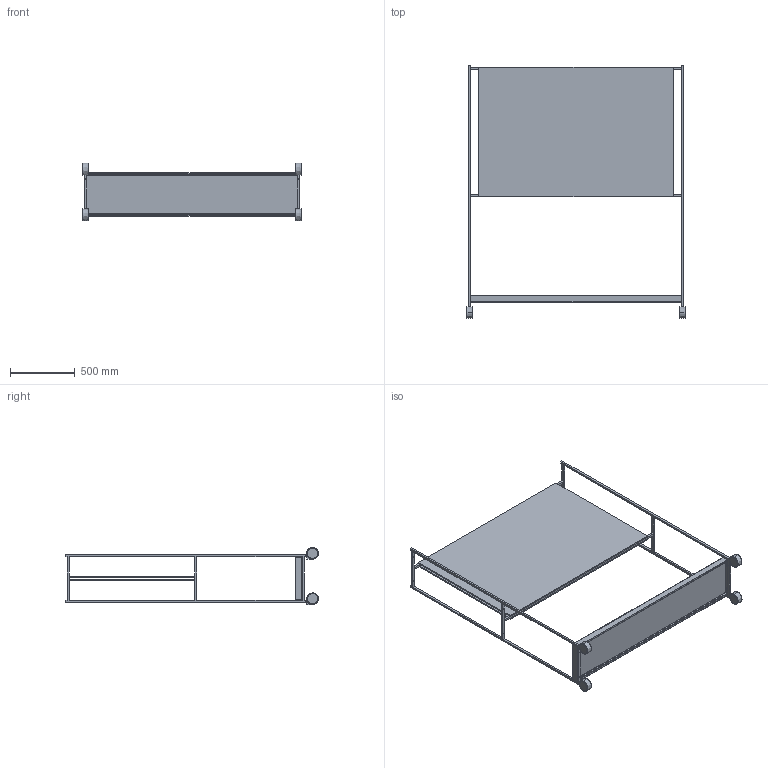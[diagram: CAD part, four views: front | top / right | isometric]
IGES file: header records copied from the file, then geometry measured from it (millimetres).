
Start section: SolidWorks IGES file using analytic representation for surfaces
Global section: file name: C:\Users\hcaixa\Documents\Gabinete Tecnico\72_produtos cliente\Timsteel\Mesas\Mesas Escritorio Operativas\Sistema Level Timsteel\AREIA-STUDIO FURNITURE CONCEPT\IGS\SUPORT QUADROS.IGS; native system: SolidWorks 2014; preprocessor: SolidWorks 2014; author: hcaixa; date: 190702.182230; units: millimetre
Bounding box: 1690.14 x 1948 x 441 mm (x, y, z)
Surface area: 9077269.7 mm2 (no closed solid volume)
Topology: 0 solids, 0 shells, 336 faces, 5472 edges, 5472 vertices
Faces by surface type: bspline 206, revolution 130
